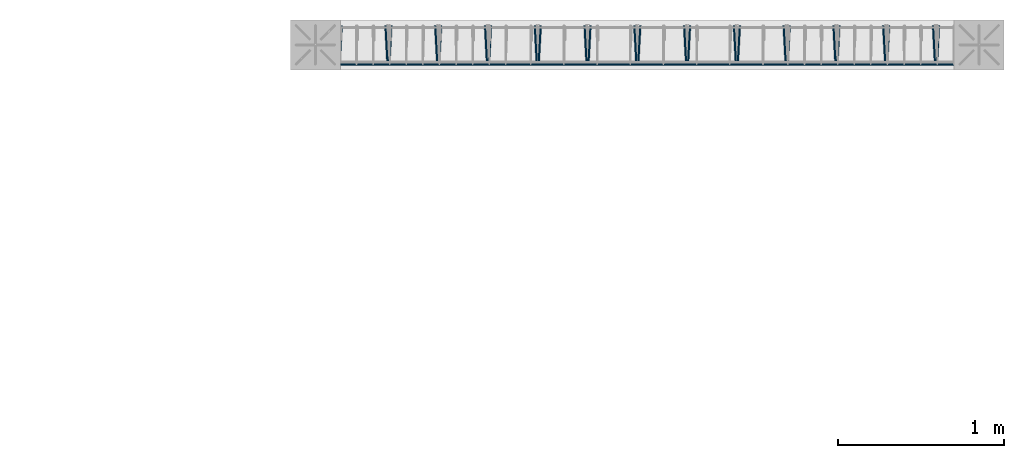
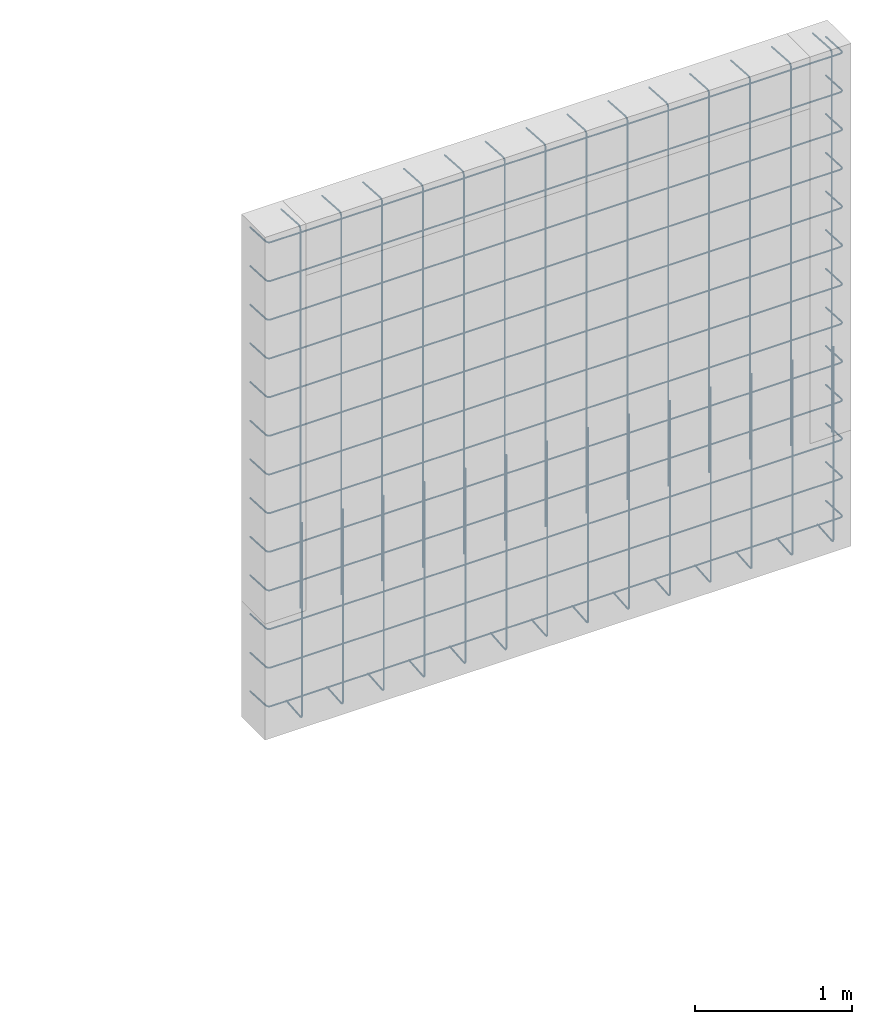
# One storey, part 8 of 11: 1 reinforcing bar.
"""IFC2X3 building model written with IfcOpenShell, lengths in metres."""

from ifc_helpers import new_model, entity, si_unit, direction, frame, origin, place, context, subcontext, project, spatial, shape, source, transform, mapped, element, save


model = new_model("IFC2X3")

# Units and contexts
model_context = context("Model", 3, precision=0.0, world=origin(), true_north=direction((0.0, 1.0)))
plan_context = context("Plan", 3, precision=0.0, world=origin(), true_north=direction((0.0, 1.0)))
body_context = subcontext(model_context, "Body", "Model", "MODEL_VIEW", scale=1.0)
ifc_project = project(units=[si_unit("LENGTHUNIT", "METRE"), si_unit("AREAUNIT", "SQUARE_METRE"), si_unit("VOLUMEUNIT", "CUBIC_METRE"), si_unit("PLANEANGLEUNIT", "RADIAN"), si_unit("THERMODYNAMICTEMPERATUREUNIT", "DEGREE_CELSIUS"), si_unit("FORCEUNIT", "NEWTON"), si_unit("MASSUNIT", "GRAM", prefix="KILO")], contexts=[model_context, plan_context])

# Site, building, storey
placement = place(None, origin())
site = spatial("IfcSite", under=ifc_project, at=placement, Name="Default Site", CompositionType="ELEMENT")
building = spatial("IfcBuilding", under=site, at=placement, Name="Default Building", CompositionType="ELEMENT")
storey_placement = place(placement, frame((0.0, 0.0, 3.0), z_axis=(1.0, 0.0, 0.0), x_axis=(0.0, 0.0, 1.0)))
storey = spatial("IfcBuildingStorey", under=building, at=storey_placement, Name="Piano 1", CompositionType="ELEMENT", Elevation=3.0)

# Reinforcing bar
shared_shape_1 = source(origin(), body_context, None, "AdvancedSweptSolid", [
    entity("IfcSweptDiskSolid", entity("IfcCompositeCurve", [entity("IfcCompositeCurveSegment", "CONTINUOUS", True, entity("IfcPolyline", [entity("IfcCartesianPoint", [0.0, 0.0, 0.0]), entity("IfcCartesianPoint", [0.0, -0.200034, 0.010716]), entity("IfcCartesianPoint", [0.003215, -0.212017, 0.011358]), entity("IfcCartesianPoint", [0.012, -0.220789, 0.011828]), entity("IfcCartesianPoint", [0.024, -0.224, 0.012]), entity("IfcCartesianPoint", [4.2, -0.224, 0.012]), entity("IfcCartesianPoint", [4.212, -0.220789, 0.011828]), entity("IfcCartesianPoint", [4.220785, -0.212017, 0.011358]), entity("IfcCartesianPoint", [4.224, -0.200034, 0.010716]), entity("IfcCartesianPoint", [4.224, 0.0, 0.0])]))], False), 0.006, 0.0, 0.0),
])
shared_shape_2 = source(origin(), body_context, None, "MappedRepresentation", [mapped(shared_shape_1, transform((32.388, 3.106, 2.911)))])
shared_shape_3 = source(origin(), body_context, None, "AdvancedSweptSolid", [
    entity("IfcSweptDiskSolid", entity("IfcCompositeCurve", [entity("IfcCompositeCurveSegment", "CONTINUOUS", True, entity("IfcPolyline", [entity("IfcCartesianPoint", [0.0, 0.0, 0.0]), entity("IfcCartesianPoint", [0.0, -0.200034, 0.010716]), entity("IfcCartesianPoint", [0.003215, -0.212017, 0.011358]), entity("IfcCartesianPoint", [0.012, -0.220789, 0.011828]), entity("IfcCartesianPoint", [0.024, -0.224, 0.012]), entity("IfcCartesianPoint", [4.2, -0.224, 0.012]), entity("IfcCartesianPoint", [4.212, -0.220789, 0.011828]), entity("IfcCartesianPoint", [4.220785, -0.212017, 0.011358]), entity("IfcCartesianPoint", [4.224, -0.200034, 0.010716]), entity("IfcCartesianPoint", [4.224, 0.0, 0.0])]))], False), 0.006, 0.0, 0.0),
])
shared_shape_4 = source(origin(), body_context, None, "MappedRepresentation", [mapped(shared_shape_3, transform((32.388, 3.106, 2.611)))])
shared_shape_5 = source(origin(), body_context, None, "AdvancedSweptSolid", [
    entity("IfcSweptDiskSolid", entity("IfcCompositeCurve", [entity("IfcCompositeCurveSegment", "CONTINUOUS", True, entity("IfcPolyline", [entity("IfcCartesianPoint", [0.0, 0.0, 0.0]), entity("IfcCartesianPoint", [0.0, -0.200034, 0.010716]), entity("IfcCartesianPoint", [0.003215, -0.212017, 0.011358]), entity("IfcCartesianPoint", [0.012, -0.220789, 0.011828]), entity("IfcCartesianPoint", [0.024, -0.224, 0.012]), entity("IfcCartesianPoint", [4.2, -0.224, 0.012]), entity("IfcCartesianPoint", [4.212, -0.220789, 0.011828]), entity("IfcCartesianPoint", [4.220785, -0.212017, 0.011358]), entity("IfcCartesianPoint", [4.224, -0.200034, 0.010716]), entity("IfcCartesianPoint", [4.224, 0.0, 0.0])]))], False), 0.006, 0.0, 0.0),
])
shared_shape_6 = source(origin(), body_context, None, "MappedRepresentation", [mapped(shared_shape_5, transform((32.388, 3.106, 2.311)))])
shared_shape_7 = source(origin(), body_context, None, "AdvancedSweptSolid", [
    entity("IfcSweptDiskSolid", entity("IfcCompositeCurve", [entity("IfcCompositeCurveSegment", "CONTINUOUS", True, entity("IfcPolyline", [entity("IfcCartesianPoint", [0.0, 0.0, 0.0]), entity("IfcCartesianPoint", [0.0, -0.200034, 0.010716]), entity("IfcCartesianPoint", [0.003215, -0.212017, 0.011358]), entity("IfcCartesianPoint", [0.012, -0.220789, 0.011828]), entity("IfcCartesianPoint", [0.024, -0.224, 0.012]), entity("IfcCartesianPoint", [4.2, -0.224, 0.012]), entity("IfcCartesianPoint", [4.212, -0.220789, 0.011828]), entity("IfcCartesianPoint", [4.220785, -0.212017, 0.011358]), entity("IfcCartesianPoint", [4.224, -0.200034, 0.010716]), entity("IfcCartesianPoint", [4.224, 0.0, 0.0])]))], False), 0.006, 0.0, 0.0),
])
shared_shape_8 = source(origin(), body_context, None, "MappedRepresentation", [mapped(shared_shape_7, transform((32.388, 3.106, 2.011)))])
shared_shape_9 = source(origin(), body_context, None, "AdvancedSweptSolid", [
    entity("IfcSweptDiskSolid", entity("IfcCompositeCurve", [entity("IfcCompositeCurveSegment", "CONTINUOUS", True, entity("IfcPolyline", [entity("IfcCartesianPoint", [0.0, 0.0, 0.0]), entity("IfcCartesianPoint", [0.0, -0.200034, 0.010716]), entity("IfcCartesianPoint", [0.003215, -0.212017, 0.011358]), entity("IfcCartesianPoint", [0.012, -0.220789, 0.011828]), entity("IfcCartesianPoint", [0.024, -0.224, 0.012]), entity("IfcCartesianPoint", [4.2, -0.224, 0.012]), entity("IfcCartesianPoint", [4.212, -0.220789, 0.011828]), entity("IfcCartesianPoint", [4.220785, -0.212017, 0.011358]), entity("IfcCartesianPoint", [4.224, -0.200034, 0.010716]), entity("IfcCartesianPoint", [4.224, 0.0, 0.0])]))], False), 0.006, 0.0, 0.0),
])
shared_shape_10 = source(origin(), body_context, None, "MappedRepresentation", [mapped(shared_shape_9, transform((32.388, 3.106, 1.711)))])
shared_shape_11 = source(origin(), body_context, None, "AdvancedSweptSolid", [
    entity("IfcSweptDiskSolid", entity("IfcCompositeCurve", [entity("IfcCompositeCurveSegment", "CONTINUOUS", True, entity("IfcPolyline", [entity("IfcCartesianPoint", [0.0, 0.0, 0.0]), entity("IfcCartesianPoint", [0.0, -0.200034, 0.010716]), entity("IfcCartesianPoint", [0.003215, -0.212017, 0.011358]), entity("IfcCartesianPoint", [0.012, -0.220789, 0.011828]), entity("IfcCartesianPoint", [0.024, -0.224, 0.012]), entity("IfcCartesianPoint", [4.2, -0.224, 0.012]), entity("IfcCartesianPoint", [4.212, -0.220789, 0.011828]), entity("IfcCartesianPoint", [4.220785, -0.212017, 0.011358]), entity("IfcCartesianPoint", [4.224, -0.200034, 0.010716]), entity("IfcCartesianPoint", [4.224, 0.0, 0.0])]))], False), 0.006, 0.0, 0.0),
])
shared_shape_12 = source(origin(), body_context, None, "MappedRepresentation", [mapped(shared_shape_11, transform((32.388, 3.106, 1.411)))])
shared_shape_13 = source(origin(), body_context, None, "AdvancedSweptSolid", [
    entity("IfcSweptDiskSolid", entity("IfcCompositeCurve", [entity("IfcCompositeCurveSegment", "CONTINUOUS", True, entity("IfcPolyline", [entity("IfcCartesianPoint", [0.0, 0.0, 0.0]), entity("IfcCartesianPoint", [0.0, -0.200034, 0.010716]), entity("IfcCartesianPoint", [0.003215, -0.212017, 0.011358]), entity("IfcCartesianPoint", [0.012, -0.220789, 0.011828]), entity("IfcCartesianPoint", [0.024, -0.224, 0.012]), entity("IfcCartesianPoint", [4.2, -0.224, 0.012]), entity("IfcCartesianPoint", [4.212, -0.220789, 0.011828]), entity("IfcCartesianPoint", [4.220785, -0.212017, 0.011358]), entity("IfcCartesianPoint", [4.224, -0.200034, 0.010716]), entity("IfcCartesianPoint", [4.224, 0.0, 0.0])]))], False), 0.006, 0.0, 0.0),
])
shared_shape_14 = source(origin(), body_context, None, "MappedRepresentation", [mapped(shared_shape_13, transform((32.388, 3.106, 1.111)))])
shared_shape_15 = source(origin(), body_context, None, "AdvancedSweptSolid", [
    entity("IfcSweptDiskSolid", entity("IfcCompositeCurve", [entity("IfcCompositeCurveSegment", "CONTINUOUS", True, entity("IfcPolyline", [entity("IfcCartesianPoint", [0.0, 0.0, 0.0]), entity("IfcCartesianPoint", [0.0, -0.200034, 0.010716]), entity("IfcCartesianPoint", [0.003215, -0.212017, 0.011358]), entity("IfcCartesianPoint", [0.012, -0.220789, 0.011828]), entity("IfcCartesianPoint", [0.024, -0.224, 0.012]), entity("IfcCartesianPoint", [4.2, -0.224, 0.012]), entity("IfcCartesianPoint", [4.212, -0.220789, 0.011828]), entity("IfcCartesianPoint", [4.220785, -0.212017, 0.011358]), entity("IfcCartesianPoint", [4.224, -0.200034, 0.010716]), entity("IfcCartesianPoint", [4.224, 0.0, 0.0])]))], False), 0.006, 0.0, 0.0),
])
shared_shape_16 = source(origin(), body_context, None, "MappedRepresentation", [mapped(shared_shape_15, transform((32.388, 3.106, 0.811)))])
shared_shape_17 = source(origin(), body_context, None, "AdvancedSweptSolid", [
    entity("IfcSweptDiskSolid", entity("IfcCompositeCurve", [entity("IfcCompositeCurveSegment", "CONTINUOUS", True, entity("IfcPolyline", [entity("IfcCartesianPoint", [0.0, 0.0, 0.0]), entity("IfcCartesianPoint", [0.0, -0.200034, 0.010716]), entity("IfcCartesianPoint", [0.003215, -0.212017, 0.011358]), entity("IfcCartesianPoint", [0.012, -0.220789, 0.011828]), entity("IfcCartesianPoint", [0.024, -0.224, 0.012]), entity("IfcCartesianPoint", [4.2, -0.224, 0.012]), entity("IfcCartesianPoint", [4.212, -0.220789, 0.011828]), entity("IfcCartesianPoint", [4.220785, -0.212017, 0.011358]), entity("IfcCartesianPoint", [4.224, -0.200034, 0.010716]), entity("IfcCartesianPoint", [4.224, 0.0, 0.0])]))], False), 0.006, 0.0, 0.0),
])
shared_shape_18 = source(origin(), body_context, None, "MappedRepresentation", [mapped(shared_shape_17, transform((32.388, 3.106, 0.511)))])
shared_shape_19 = source(origin(), body_context, None, "AdvancedSweptSolid", [
    entity("IfcSweptDiskSolid", entity("IfcCompositeCurve", [entity("IfcCompositeCurveSegment", "CONTINUOUS", True, entity("IfcPolyline", [entity("IfcCartesianPoint", [0.0, 0.0, 0.0]), entity("IfcCartesianPoint", [0.0, -0.200034, 0.010716]), entity("IfcCartesianPoint", [0.003215, -0.212017, 0.011358]), entity("IfcCartesianPoint", [0.012, -0.220789, 0.011828]), entity("IfcCartesianPoint", [0.024, -0.224, 0.012]), entity("IfcCartesianPoint", [4.2, -0.224, 0.012]), entity("IfcCartesianPoint", [4.212, -0.220789, 0.011828]), entity("IfcCartesianPoint", [4.220785, -0.212017, 0.011358]), entity("IfcCartesianPoint", [4.224, -0.200034, 0.010716]), entity("IfcCartesianPoint", [4.224, 0.0, 0.0])]))], False), 0.006, 0.0, 0.0),
])
shared_shape_20 = source(origin(), body_context, None, "MappedRepresentation", [mapped(shared_shape_19, transform((32.388, 3.106, 0.211)))])
shared_shape_21 = source(origin(), body_context, None, "AdvancedSweptSolid", [
    entity("IfcSweptDiskSolid", entity("IfcCompositeCurve", [entity("IfcCompositeCurveSegment", "CONTINUOUS", True, entity("IfcPolyline", [entity("IfcCartesianPoint", [0.0, 0.0, 0.0]), entity("IfcCartesianPoint", [0.0, -0.200034, 0.010716]), entity("IfcCartesianPoint", [0.003215, -0.212017, 0.011358]), entity("IfcCartesianPoint", [0.012, -0.220789, 0.011828]), entity("IfcCartesianPoint", [0.024, -0.224, 0.012]), entity("IfcCartesianPoint", [4.2, -0.224, 0.012]), entity("IfcCartesianPoint", [4.212, -0.220789, 0.011828]), entity("IfcCartesianPoint", [4.220785, -0.212017, 0.011358]), entity("IfcCartesianPoint", [4.224, -0.200034, 0.010716]), entity("IfcCartesianPoint", [4.224, 0.0, 0.0])]))], False), 0.006, 0.0, 0.0),
])
shared_shape_22 = source(origin(), body_context, None, "MappedRepresentation", [mapped(shared_shape_21, transform((32.388, 3.106, -0.089)))])
shared_shape_23 = source(origin(), body_context, None, "AdvancedSweptSolid", [
    entity("IfcSweptDiskSolid", entity("IfcCompositeCurve", [entity("IfcCompositeCurveSegment", "CONTINUOUS", True, entity("IfcPolyline", [entity("IfcCartesianPoint", [0.0, 0.0, 0.0]), entity("IfcCartesianPoint", [0.0, -0.200034, 0.010716]), entity("IfcCartesianPoint", [0.003215, -0.212017, 0.011358]), entity("IfcCartesianPoint", [0.012, -0.220789, 0.011828]), entity("IfcCartesianPoint", [0.024, -0.224, 0.012]), entity("IfcCartesianPoint", [4.2, -0.224, 0.012]), entity("IfcCartesianPoint", [4.212, -0.220789, 0.011828]), entity("IfcCartesianPoint", [4.220785, -0.212017, 0.011358]), entity("IfcCartesianPoint", [4.224, -0.200034, 0.010716]), entity("IfcCartesianPoint", [4.224, 0.0, 0.0])]))], False), 0.006, 0.0, 0.0),
])
shared_shape_24 = source(origin(), body_context, None, "MappedRepresentation", [mapped(shared_shape_23, transform((32.388, 3.106, -0.389)))])
shared_shape_25 = source(origin(), body_context, None, "AdvancedSweptSolid", [
    entity("IfcSweptDiskSolid", entity("IfcCompositeCurve", [entity("IfcCompositeCurveSegment", "CONTINUOUS", True, entity("IfcPolyline", [entity("IfcCartesianPoint", [0.0, 0.0, 0.0]), entity("IfcCartesianPoint", [0.0, -0.200034, 0.010716]), entity("IfcCartesianPoint", [0.003215, -0.212017, 0.011358]), entity("IfcCartesianPoint", [0.012, -0.220789, 0.011828]), entity("IfcCartesianPoint", [0.024, -0.224, 0.012]), entity("IfcCartesianPoint", [4.2, -0.224, 0.012]), entity("IfcCartesianPoint", [4.212, -0.220789, 0.011828]), entity("IfcCartesianPoint", [4.220785, -0.212017, 0.011358]), entity("IfcCartesianPoint", [4.224, -0.200034, 0.010716]), entity("IfcCartesianPoint", [4.224, 0.0, 0.0])]))], False), 0.006, 0.0, 0.0),
])
shared_shape_26 = source(origin(), body_context, None, "MappedRepresentation", [mapped(shared_shape_25, transform((32.388, 3.106, -0.689)))])
shared_shape_27 = source(origin(), body_context, None, "AdvancedSweptSolid", [
    entity("IfcSweptDiskSolid", entity("IfcCompositeCurve", [entity("IfcCompositeCurveSegment", "CONTINUOUS", True, entity("IfcPolyline", [entity("IfcCartesianPoint", [0.0, 0.0, 0.0]), entity("IfcCartesianPoint", [-0.010716, -0.200034, 0.0]), entity("IfcCartesianPoint", [-0.011358, -0.212017, 0.003215]), entity("IfcCartesianPoint", [-0.011828, -0.220789, 0.012]), entity("IfcCartesianPoint", [-0.012, -0.224, 0.024]), entity("IfcCartesianPoint", [-0.012, -0.224, 1.522])]))], False), 0.006, 0.0, 0.0),
])
shared_shape_28 = source(origin(), body_context, None, "MappedRepresentation", [mapped(shared_shape_27, transform((32.658, 3.118, -0.862)))])
shared_shape_29 = source(origin(), body_context, None, "AdvancedSweptSolid", [
    entity("IfcSweptDiskSolid", entity("IfcCompositeCurve", [entity("IfcCompositeCurveSegment", "CONTINUOUS", True, entity("IfcPolyline", [entity("IfcCartesianPoint", [0.0, 0.0, 0.0]), entity("IfcCartesianPoint", [0.0, 0.0, 2.938]), entity("IfcCartesianPoint", [-0.000172, 0.003211, 2.95]), entity("IfcCartesianPoint", [-0.000642, 0.011983, 2.958785]), entity("IfcCartesianPoint", [-0.001284, 0.023966, 2.962]), entity("IfcCartesianPoint", [-0.012, 0.224, 2.962])]))], False), 0.006, 0.0, 0.0),
])
shared_shape_30 = source(origin(), body_context, None, "MappedRepresentation", [mapped(shared_shape_29, transform((32.634, 2.894, 0.0)))])
shared_shape_31 = source(origin(), body_context, None, "AdvancedSweptSolid", [
    entity("IfcSweptDiskSolid", entity("IfcCompositeCurve", [entity("IfcCompositeCurveSegment", "CONTINUOUS", True, entity("IfcPolyline", [entity("IfcCartesianPoint", [0.0, 0.0, 0.0]), entity("IfcCartesianPoint", [-0.010716, -0.200034, 0.0]), entity("IfcCartesianPoint", [-0.011358, -0.212017, 0.003215]), entity("IfcCartesianPoint", [-0.011828, -0.220789, 0.012]), entity("IfcCartesianPoint", [-0.012, -0.224, 0.024]), entity("IfcCartesianPoint", [-0.012, -0.224, 1.522])]))], False), 0.006, 0.0, 0.0),
])
shared_shape_32 = source(origin(), body_context, None, "MappedRepresentation", [mapped(shared_shape_31, transform((32.958, 3.118, -0.862)))])
shared_shape_33 = source(origin(), body_context, None, "AdvancedSweptSolid", [
    entity("IfcSweptDiskSolid", entity("IfcCompositeCurve", [entity("IfcCompositeCurveSegment", "CONTINUOUS", True, entity("IfcPolyline", [entity("IfcCartesianPoint", [0.0, 0.0, 0.0]), entity("IfcCartesianPoint", [0.0, 0.0, 2.938]), entity("IfcCartesianPoint", [-0.000172, 0.003211, 2.95]), entity("IfcCartesianPoint", [-0.000642, 0.011983, 2.958785]), entity("IfcCartesianPoint", [-0.001284, 0.023966, 2.962]), entity("IfcCartesianPoint", [-0.012, 0.224, 2.962])]))], False), 0.006, 0.0, 0.0),
])
shared_shape_34 = source(origin(), body_context, None, "MappedRepresentation", [mapped(shared_shape_33, transform((32.934, 2.894, 0.0)))])
shared_shape_35 = source(origin(), body_context, None, "AdvancedSweptSolid", [
    entity("IfcSweptDiskSolid", entity("IfcCompositeCurve", [entity("IfcCompositeCurveSegment", "CONTINUOUS", True, entity("IfcPolyline", [entity("IfcCartesianPoint", [0.0, 0.0, 0.0]), entity("IfcCartesianPoint", [-0.010716, -0.200034, 0.0]), entity("IfcCartesianPoint", [-0.011358, -0.212017, 0.003215]), entity("IfcCartesianPoint", [-0.011828, -0.220789, 0.012]), entity("IfcCartesianPoint", [-0.012, -0.224, 0.024]), entity("IfcCartesianPoint", [-0.012, -0.224, 1.522])]))], False), 0.006, 0.0, 0.0),
])
shared_shape_36 = source(origin(), body_context, None, "MappedRepresentation", [mapped(shared_shape_35, transform((33.258, 3.118, -0.862)))])
shared_shape_37 = source(origin(), body_context, None, "AdvancedSweptSolid", [
    entity("IfcSweptDiskSolid", entity("IfcCompositeCurve", [entity("IfcCompositeCurveSegment", "CONTINUOUS", True, entity("IfcPolyline", [entity("IfcCartesianPoint", [0.0, 0.0, 0.0]), entity("IfcCartesianPoint", [0.0, 0.0, 2.938]), entity("IfcCartesianPoint", [-0.000172, 0.003211, 2.95]), entity("IfcCartesianPoint", [-0.000642, 0.011983, 2.958785]), entity("IfcCartesianPoint", [-0.001284, 0.023966, 2.962]), entity("IfcCartesianPoint", [-0.012, 0.224, 2.962])]))], False), 0.006, 0.0, 0.0),
])
shared_shape_38 = source(origin(), body_context, None, "MappedRepresentation", [mapped(shared_shape_37, transform((33.234, 2.894, 0.0)))])
shared_shape_39 = source(origin(), body_context, None, "AdvancedSweptSolid", [
    entity("IfcSweptDiskSolid", entity("IfcCompositeCurve", [entity("IfcCompositeCurveSegment", "CONTINUOUS", True, entity("IfcPolyline", [entity("IfcCartesianPoint", [0.0, 0.0, 0.0]), entity("IfcCartesianPoint", [-0.010716, -0.200034, 0.0]), entity("IfcCartesianPoint", [-0.011358, -0.212017, 0.003215]), entity("IfcCartesianPoint", [-0.011828, -0.220789, 0.012]), entity("IfcCartesianPoint", [-0.012, -0.224, 0.024]), entity("IfcCartesianPoint", [-0.012, -0.224, 1.522])]))], False), 0.006, 0.0, 0.0),
])
shared_shape_40 = source(origin(), body_context, None, "MappedRepresentation", [mapped(shared_shape_39, transform((33.558, 3.118, -0.862)))])
shared_shape_41 = source(origin(), body_context, None, "AdvancedSweptSolid", [
    entity("IfcSweptDiskSolid", entity("IfcCompositeCurve", [entity("IfcCompositeCurveSegment", "CONTINUOUS", True, entity("IfcPolyline", [entity("IfcCartesianPoint", [0.0, 0.0, 0.0]), entity("IfcCartesianPoint", [0.0, 0.0, 2.938]), entity("IfcCartesianPoint", [-0.000172, 0.003211, 2.95]), entity("IfcCartesianPoint", [-0.000642, 0.011983, 2.958785]), entity("IfcCartesianPoint", [-0.001284, 0.023966, 2.962]), entity("IfcCartesianPoint", [-0.012, 0.224, 2.962])]))], False), 0.006, 0.0, 0.0),
])
shared_shape_42 = source(origin(), body_context, None, "MappedRepresentation", [mapped(shared_shape_41, transform((33.534, 2.894, 0.0)))])
shared_shape_43 = source(origin(), body_context, None, "AdvancedSweptSolid", [
    entity("IfcSweptDiskSolid", entity("IfcCompositeCurve", [entity("IfcCompositeCurveSegment", "CONTINUOUS", True, entity("IfcPolyline", [entity("IfcCartesianPoint", [0.0, 0.0, 0.0]), entity("IfcCartesianPoint", [-0.010716, -0.200034, 0.0]), entity("IfcCartesianPoint", [-0.011358, -0.212017, 0.003215]), entity("IfcCartesianPoint", [-0.011828, -0.220789, 0.012]), entity("IfcCartesianPoint", [-0.012, -0.224, 0.024]), entity("IfcCartesianPoint", [-0.012, -0.224, 1.522])]))], False), 0.006, 0.0, 0.0),
])
shared_shape_44 = source(origin(), body_context, None, "MappedRepresentation", [mapped(shared_shape_43, transform((33.858, 3.118, -0.862)))])
shared_shape_45 = source(origin(), body_context, None, "AdvancedSweptSolid", [
    entity("IfcSweptDiskSolid", entity("IfcCompositeCurve", [entity("IfcCompositeCurveSegment", "CONTINUOUS", True, entity("IfcPolyline", [entity("IfcCartesianPoint", [0.0, 0.0, 0.0]), entity("IfcCartesianPoint", [0.0, 0.0, 2.938]), entity("IfcCartesianPoint", [-0.000172, 0.003211, 2.95]), entity("IfcCartesianPoint", [-0.000642, 0.011983, 2.958785]), entity("IfcCartesianPoint", [-0.001284, 0.023966, 2.962]), entity("IfcCartesianPoint", [-0.012, 0.224, 2.962])]))], False), 0.006, 0.0, 0.0),
])
shared_shape_46 = source(origin(), body_context, None, "MappedRepresentation", [mapped(shared_shape_45, transform((33.834, 2.894, 0.0)))])
shared_shape_47 = source(origin(), body_context, None, "AdvancedSweptSolid", [
    entity("IfcSweptDiskSolid", entity("IfcCompositeCurve", [entity("IfcCompositeCurveSegment", "CONTINUOUS", True, entity("IfcPolyline", [entity("IfcCartesianPoint", [0.0, 0.0, 0.0]), entity("IfcCartesianPoint", [-0.010716, -0.200034, 0.0]), entity("IfcCartesianPoint", [-0.011358, -0.212017, 0.003215]), entity("IfcCartesianPoint", [-0.011828, -0.220789, 0.012]), entity("IfcCartesianPoint", [-0.012, -0.224, 0.024]), entity("IfcCartesianPoint", [-0.012, -0.224, 1.522])]))], False), 0.006, 0.0, 0.0),
])
shared_shape_48 = source(origin(), body_context, None, "MappedRepresentation", [mapped(shared_shape_47, transform((34.158, 3.118, -0.862)))])
shared_shape_49 = source(origin(), body_context, None, "AdvancedSweptSolid", [
    entity("IfcSweptDiskSolid", entity("IfcCompositeCurve", [entity("IfcCompositeCurveSegment", "CONTINUOUS", True, entity("IfcPolyline", [entity("IfcCartesianPoint", [0.0, 0.0, 0.0]), entity("IfcCartesianPoint", [0.0, 0.0, 2.938]), entity("IfcCartesianPoint", [-0.000172, 0.003211, 2.95]), entity("IfcCartesianPoint", [-0.000642, 0.011983, 2.958785]), entity("IfcCartesianPoint", [-0.001284, 0.023966, 2.962]), entity("IfcCartesianPoint", [-0.012, 0.224, 2.962])]))], False), 0.006, 0.0, 0.0),
])
shared_shape_50 = source(origin(), body_context, None, "MappedRepresentation", [mapped(shared_shape_49, transform((34.134, 2.894, 0.0)))])
shared_shape_51 = source(origin(), body_context, None, "AdvancedSweptSolid", [
    entity("IfcSweptDiskSolid", entity("IfcCompositeCurve", [entity("IfcCompositeCurveSegment", "CONTINUOUS", True, entity("IfcPolyline", [entity("IfcCartesianPoint", [0.0, 0.0, 0.0]), entity("IfcCartesianPoint", [-0.010716, -0.200034, 0.0]), entity("IfcCartesianPoint", [-0.011358, -0.212017, 0.003215]), entity("IfcCartesianPoint", [-0.011828, -0.220789, 0.012]), entity("IfcCartesianPoint", [-0.012, -0.224, 0.024]), entity("IfcCartesianPoint", [-0.012, -0.224, 1.522])]))], False), 0.006, 0.0, 0.0),
])
shared_shape_52 = source(origin(), body_context, None, "MappedRepresentation", [mapped(shared_shape_51, transform((34.458, 3.118, -0.862)))])
shared_shape_53 = source(origin(), body_context, None, "AdvancedSweptSolid", [
    entity("IfcSweptDiskSolid", entity("IfcCompositeCurve", [entity("IfcCompositeCurveSegment", "CONTINUOUS", True, entity("IfcPolyline", [entity("IfcCartesianPoint", [0.0, 0.0, 0.0]), entity("IfcCartesianPoint", [0.0, 0.0, 2.938]), entity("IfcCartesianPoint", [-0.000172, 0.003211, 2.95]), entity("IfcCartesianPoint", [-0.000642, 0.011983, 2.958785]), entity("IfcCartesianPoint", [-0.001284, 0.023966, 2.962]), entity("IfcCartesianPoint", [-0.012, 0.224, 2.962])]))], False), 0.006, 0.0, 0.0),
])
shared_shape_54 = source(origin(), body_context, None, "MappedRepresentation", [mapped(shared_shape_53, transform((34.434, 2.894, 0.0)))])
shared_shape_55 = source(origin(), body_context, None, "AdvancedSweptSolid", [
    entity("IfcSweptDiskSolid", entity("IfcCompositeCurve", [entity("IfcCompositeCurveSegment", "CONTINUOUS", True, entity("IfcPolyline", [entity("IfcCartesianPoint", [0.0, 0.0, 0.0]), entity("IfcCartesianPoint", [-0.010716, -0.200034, 0.0]), entity("IfcCartesianPoint", [-0.011358, -0.212017, 0.003215]), entity("IfcCartesianPoint", [-0.011828, -0.220789, 0.012]), entity("IfcCartesianPoint", [-0.012, -0.224, 0.024]), entity("IfcCartesianPoint", [-0.012, -0.224, 1.522])]))], False), 0.006, 0.0, 0.0),
])
shared_shape_56 = source(origin(), body_context, None, "MappedRepresentation", [mapped(shared_shape_55, transform((34.758, 3.118, -0.862)))])
shared_shape_57 = source(origin(), body_context, None, "AdvancedSweptSolid", [
    entity("IfcSweptDiskSolid", entity("IfcCompositeCurve", [entity("IfcCompositeCurveSegment", "CONTINUOUS", True, entity("IfcPolyline", [entity("IfcCartesianPoint", [0.0, 0.0, 0.0]), entity("IfcCartesianPoint", [0.0, 0.0, 2.938]), entity("IfcCartesianPoint", [-0.000172, 0.003211, 2.95]), entity("IfcCartesianPoint", [-0.000642, 0.011983, 2.958785]), entity("IfcCartesianPoint", [-0.001284, 0.023966, 2.962]), entity("IfcCartesianPoint", [-0.012, 0.224, 2.962])]))], False), 0.006, 0.0, 0.0),
])
shared_shape_58 = source(origin(), body_context, None, "MappedRepresentation", [mapped(shared_shape_57, transform((34.734, 2.894, 0.0)))])
shared_shape_59 = source(origin(), body_context, None, "AdvancedSweptSolid", [
    entity("IfcSweptDiskSolid", entity("IfcCompositeCurve", [entity("IfcCompositeCurveSegment", "CONTINUOUS", True, entity("IfcPolyline", [entity("IfcCartesianPoint", [0.0, 0.0, 0.0]), entity("IfcCartesianPoint", [-0.010716, -0.200034, 0.0]), entity("IfcCartesianPoint", [-0.011358, -0.212017, 0.003215]), entity("IfcCartesianPoint", [-0.011828, -0.220789, 0.012]), entity("IfcCartesianPoint", [-0.012, -0.224, 0.024]), entity("IfcCartesianPoint", [-0.012, -0.224, 1.522])]))], False), 0.006, 0.0, 0.0),
])
shared_shape_60 = source(origin(), body_context, None, "MappedRepresentation", [mapped(shared_shape_59, transform((35.058, 3.118, -0.862)))])
shared_shape_61 = source(origin(), body_context, None, "AdvancedSweptSolid", [
    entity("IfcSweptDiskSolid", entity("IfcCompositeCurve", [entity("IfcCompositeCurveSegment", "CONTINUOUS", True, entity("IfcPolyline", [entity("IfcCartesianPoint", [0.0, 0.0, 0.0]), entity("IfcCartesianPoint", [0.0, 0.0, 2.938]), entity("IfcCartesianPoint", [-0.000172, 0.003211, 2.95]), entity("IfcCartesianPoint", [-0.000642, 0.011983, 2.958785]), entity("IfcCartesianPoint", [-0.001284, 0.023966, 2.962]), entity("IfcCartesianPoint", [-0.012, 0.224, 2.962])]))], False), 0.006, 0.0, 0.0),
])
shared_shape_62 = source(origin(), body_context, None, "MappedRepresentation", [mapped(shared_shape_61, transform((35.034, 2.894, 0.0)))])
shared_shape_63 = source(origin(), body_context, None, "AdvancedSweptSolid", [
    entity("IfcSweptDiskSolid", entity("IfcCompositeCurve", [entity("IfcCompositeCurveSegment", "CONTINUOUS", True, entity("IfcPolyline", [entity("IfcCartesianPoint", [0.0, 0.0, 0.0]), entity("IfcCartesianPoint", [-0.010716, -0.200034, 0.0]), entity("IfcCartesianPoint", [-0.011358, -0.212017, 0.003215]), entity("IfcCartesianPoint", [-0.011828, -0.220789, 0.012]), entity("IfcCartesianPoint", [-0.012, -0.224, 0.024]), entity("IfcCartesianPoint", [-0.012, -0.224, 1.522])]))], False), 0.006, 0.0, 0.0),
])
shared_shape_64 = source(origin(), body_context, None, "MappedRepresentation", [mapped(shared_shape_63, transform((35.358, 3.118, -0.862)))])
shared_shape_65 = source(origin(), body_context, None, "AdvancedSweptSolid", [
    entity("IfcSweptDiskSolid", entity("IfcCompositeCurve", [entity("IfcCompositeCurveSegment", "CONTINUOUS", True, entity("IfcPolyline", [entity("IfcCartesianPoint", [0.0, 0.0, 0.0]), entity("IfcCartesianPoint", [0.0, 0.0, 2.938]), entity("IfcCartesianPoint", [-0.000172, 0.003211, 2.95]), entity("IfcCartesianPoint", [-0.000642, 0.011983, 2.958785]), entity("IfcCartesianPoint", [-0.001284, 0.023966, 2.962]), entity("IfcCartesianPoint", [-0.012, 0.224, 2.962])]))], False), 0.006, 0.0, 0.0),
])
shared_shape_66 = source(origin(), body_context, None, "MappedRepresentation", [mapped(shared_shape_65, transform((35.334, 2.894, 0.0)))])
shared_shape_67 = source(origin(), body_context, None, "AdvancedSweptSolid", [
    entity("IfcSweptDiskSolid", entity("IfcCompositeCurve", [entity("IfcCompositeCurveSegment", "CONTINUOUS", True, entity("IfcPolyline", [entity("IfcCartesianPoint", [0.0, 0.0, 0.0]), entity("IfcCartesianPoint", [-0.010716, -0.200034, 0.0]), entity("IfcCartesianPoint", [-0.011358, -0.212017, 0.003215]), entity("IfcCartesianPoint", [-0.011828, -0.220789, 0.012]), entity("IfcCartesianPoint", [-0.012, -0.224, 0.024]), entity("IfcCartesianPoint", [-0.012, -0.224, 1.522])]))], False), 0.006, 0.0, 0.0),
])
shared_shape_68 = source(origin(), body_context, None, "MappedRepresentation", [mapped(shared_shape_67, transform((35.658, 3.118, -0.862)))])
shared_shape_69 = source(origin(), body_context, None, "AdvancedSweptSolid", [
    entity("IfcSweptDiskSolid", entity("IfcCompositeCurve", [entity("IfcCompositeCurveSegment", "CONTINUOUS", True, entity("IfcPolyline", [entity("IfcCartesianPoint", [0.0, 0.0, 0.0]), entity("IfcCartesianPoint", [0.0, 0.0, 2.938]), entity("IfcCartesianPoint", [-0.000172, 0.003211, 2.95]), entity("IfcCartesianPoint", [-0.000642, 0.011983, 2.958785]), entity("IfcCartesianPoint", [-0.001284, 0.023966, 2.962]), entity("IfcCartesianPoint", [-0.012, 0.224, 2.962])]))], False), 0.006, 0.0, 0.0),
])
shared_shape_70 = source(origin(), body_context, None, "MappedRepresentation", [mapped(shared_shape_69, transform((35.634, 2.894, 0.0)))])
shared_shape_71 = source(origin(), body_context, None, "AdvancedSweptSolid", [
    entity("IfcSweptDiskSolid", entity("IfcCompositeCurve", [entity("IfcCompositeCurveSegment", "CONTINUOUS", True, entity("IfcPolyline", [entity("IfcCartesianPoint", [0.0, 0.0, 0.0]), entity("IfcCartesianPoint", [-0.010716, -0.200034, 0.0]), entity("IfcCartesianPoint", [-0.011358, -0.212017, 0.003215]), entity("IfcCartesianPoint", [-0.011828, -0.220789, 0.012]), entity("IfcCartesianPoint", [-0.012, -0.224, 0.024]), entity("IfcCartesianPoint", [-0.012, -0.224, 1.522])]))], False), 0.006, 0.0, 0.0),
])
shared_shape_72 = source(origin(), body_context, None, "MappedRepresentation", [mapped(shared_shape_71, transform((35.958, 3.118, -0.862)))])
shared_shape_73 = source(origin(), body_context, None, "AdvancedSweptSolid", [
    entity("IfcSweptDiskSolid", entity("IfcCompositeCurve", [entity("IfcCompositeCurveSegment", "CONTINUOUS", True, entity("IfcPolyline", [entity("IfcCartesianPoint", [0.0, 0.0, 0.0]), entity("IfcCartesianPoint", [0.0, 0.0, 2.938]), entity("IfcCartesianPoint", [-0.000172, 0.003211, 2.95]), entity("IfcCartesianPoint", [-0.000642, 0.011983, 2.958785]), entity("IfcCartesianPoint", [-0.001284, 0.023966, 2.962]), entity("IfcCartesianPoint", [-0.012, 0.224, 2.962])]))], False), 0.006, 0.0, 0.0),
])
shared_shape_74 = source(origin(), body_context, None, "MappedRepresentation", [mapped(shared_shape_73, transform((35.934, 2.894, 0.0)))])
shared_shape_75 = source(origin(), body_context, None, "AdvancedSweptSolid", [
    entity("IfcSweptDiskSolid", entity("IfcCompositeCurve", [entity("IfcCompositeCurveSegment", "CONTINUOUS", True, entity("IfcPolyline", [entity("IfcCartesianPoint", [0.0, 0.0, 0.0]), entity("IfcCartesianPoint", [-0.010716, -0.200034, 0.0]), entity("IfcCartesianPoint", [-0.011358, -0.212017, 0.003215]), entity("IfcCartesianPoint", [-0.011828, -0.220789, 0.012]), entity("IfcCartesianPoint", [-0.012, -0.224, 0.024]), entity("IfcCartesianPoint", [-0.012, -0.224, 1.522])]))], False), 0.006, 0.0, 0.0),
])
shared_shape_76 = source(origin(), body_context, None, "MappedRepresentation", [mapped(shared_shape_75, transform((36.258, 3.118, -0.862)))])
shared_shape_77 = source(origin(), body_context, None, "AdvancedSweptSolid", [
    entity("IfcSweptDiskSolid", entity("IfcCompositeCurve", [entity("IfcCompositeCurveSegment", "CONTINUOUS", True, entity("IfcPolyline", [entity("IfcCartesianPoint", [0.0, 0.0, 0.0]), entity("IfcCartesianPoint", [0.0, 0.0, 2.938]), entity("IfcCartesianPoint", [-0.000172, 0.003211, 2.95]), entity("IfcCartesianPoint", [-0.000642, 0.011983, 2.958785]), entity("IfcCartesianPoint", [-0.001284, 0.023966, 2.962]), entity("IfcCartesianPoint", [-0.012, 0.224, 2.962])]))], False), 0.006, 0.0, 0.0),
])
shared_shape_78 = source(origin(), body_context, None, "MappedRepresentation", [mapped(shared_shape_77, transform((36.234, 2.894, 0.0)))])
shared_shape_79 = source(origin(), body_context, None, "AdvancedSweptSolid", [
    entity("IfcSweptDiskSolid", entity("IfcCompositeCurve", [entity("IfcCompositeCurveSegment", "CONTINUOUS", True, entity("IfcPolyline", [entity("IfcCartesianPoint", [0.0, 0.0, 0.0]), entity("IfcCartesianPoint", [-0.010716, -0.200034, 0.0]), entity("IfcCartesianPoint", [-0.011358, -0.212017, 0.003215]), entity("IfcCartesianPoint", [-0.011828, -0.220789, 0.012]), entity("IfcCartesianPoint", [-0.012, -0.224, 0.024]), entity("IfcCartesianPoint", [-0.012, -0.224, 1.522])]))], False), 0.006, 0.0, 0.0),
])
shared_shape_80 = source(origin(), body_context, None, "MappedRepresentation", [mapped(shared_shape_79, transform((36.558, 3.118, -0.862)))])
shared_shape_81 = source(origin(), body_context, None, "AdvancedSweptSolid", [
    entity("IfcSweptDiskSolid", entity("IfcCompositeCurve", [entity("IfcCompositeCurveSegment", "CONTINUOUS", True, entity("IfcPolyline", [entity("IfcCartesianPoint", [0.0, 0.0, 0.0]), entity("IfcCartesianPoint", [0.0, 0.0, 2.938]), entity("IfcCartesianPoint", [-0.000172, 0.003211, 2.95]), entity("IfcCartesianPoint", [-0.000642, 0.011983, 2.958785]), entity("IfcCartesianPoint", [-0.001284, 0.023966, 2.962]), entity("IfcCartesianPoint", [-0.012, 0.224, 2.962])]))], False), 0.006, 0.0, 0.0),
])
shared_shape_82 = source(origin(), body_context, None, "MappedRepresentation", [mapped(shared_shape_81, transform((36.534, 2.894, 0.0)))])
element("IfcReinforcingBar", 1, at=placement, inside=storey, Name="Arm Superiore; MagaParete:1 [Piano:1]", BarLength=129.758424, BarRole="MAIN", BarSurface="TEXTURED", NominalDiameter=0.012, shapes=[
    shape(body_context, None, "MappedRepresentation", [mapped(shared_shape_2, transform((0.0, 0.0, 0.0))), mapped(shared_shape_4, transform((0.0, 0.0, 0.0))), mapped(shared_shape_6, transform((0.0, 0.0, 0.0))), mapped(shared_shape_8, transform((0.0, 0.0, 0.0))), mapped(shared_shape_10, transform((0.0, 0.0, 0.0))), mapped(shared_shape_12, transform((0.0, 0.0, 0.0))), mapped(shared_shape_14, transform((0.0, 0.0, 0.0))), mapped(shared_shape_16, transform((0.0, 0.0, 0.0))), mapped(shared_shape_18, transform((0.0, 0.0, 0.0))), mapped(shared_shape_20, transform((0.0, 0.0, 0.0))), mapped(shared_shape_22, transform((0.0, 0.0, 0.0))), mapped(shared_shape_24, transform((0.0, 0.0, 0.0))), mapped(shared_shape_26, transform((0.0, 0.0, 0.0))), mapped(shared_shape_28, transform((0.0, 0.0, 0.0))), mapped(shared_shape_30, transform((0.0, 0.0, 0.0))), mapped(shared_shape_32, transform((0.0, 0.0, 0.0))), mapped(shared_shape_34, transform((0.0, 0.0, 0.0))), mapped(shared_shape_36, transform((0.0, 0.0, 0.0))), mapped(shared_shape_38, transform((0.0, 0.0, 0.0))), mapped(shared_shape_40, transform((0.0, 0.0, 0.0))), mapped(shared_shape_42, transform((0.0, 0.0, 0.0))), mapped(shared_shape_44, transform((0.0, 0.0, 0.0))), mapped(shared_shape_46, transform((0.0, 0.0, 0.0))), mapped(shared_shape_48, transform((0.0, 0.0, 0.0))), mapped(shared_shape_50, transform((0.0, 0.0, 0.0))), mapped(shared_shape_52, transform((0.0, 0.0, 0.0))), mapped(shared_shape_54, transform((0.0, 0.0, 0.0))), mapped(shared_shape_56, transform((0.0, 0.0, 0.0))), mapped(shared_shape_58, transform((0.0, 0.0, 0.0))), mapped(shared_shape_60, transform((0.0, 0.0, 0.0))), mapped(shared_shape_62, transform((0.0, 0.0, 0.0))), mapped(shared_shape_64, transform((0.0, 0.0, 0.0))), mapped(shared_shape_66, transform((0.0, 0.0, 0.0))), mapped(shared_shape_68, transform((0.0, 0.0, 0.0))), mapped(shared_shape_70, transform((0.0, 0.0, 0.0))), mapped(shared_shape_72, transform((0.0, 0.0, 0.0))), mapped(shared_shape_74, transform((0.0, 0.0, 0.0))), mapped(shared_shape_76, transform((0.0, 0.0, 0.0))), mapped(shared_shape_78, transform((0.0, 0.0, 0.0))), mapped(shared_shape_80, transform((0.0, 0.0, 0.0))), mapped(shared_shape_82, transform((0.0, 0.0, 0.0)))]),
])

save(model, "model.ifc")
